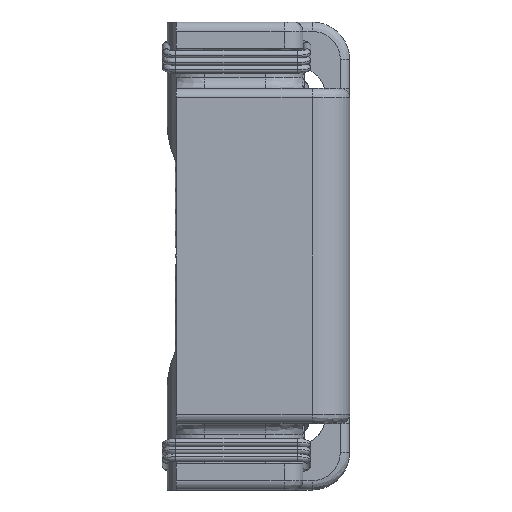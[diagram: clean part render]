
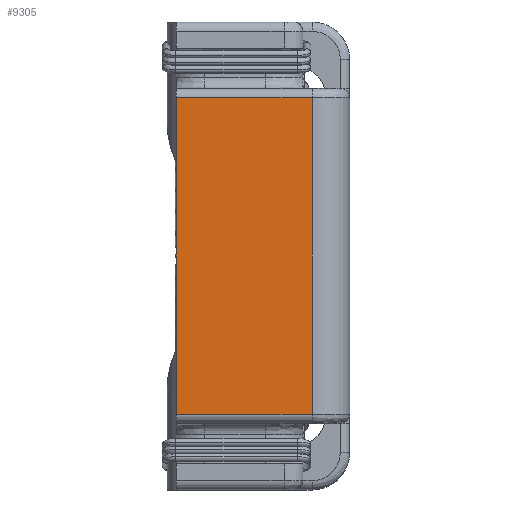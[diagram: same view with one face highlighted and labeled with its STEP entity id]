
A CAD part, left-side view. The second image highlights one B-rep face of the part: STEP entity #9305.
In plain terms, the highlighted planar face has unit normal (-1, 0, 0).
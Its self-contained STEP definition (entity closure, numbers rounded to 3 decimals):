
#1 = LINE ( 'NONE', #11206, #2756 ) ;
#18 = DIRECTION ( 'NONE',  ( 0., 0., -1. ) ) ;
#112 = DIRECTION ( 'NONE',  ( 1., 0., 0. ) ) ;
#277 = CARTESIAN_POINT ( 'NONE',  ( -6.35, 1.016, 4.293 ) ) ;
#1146 = CARTESIAN_POINT ( 'NONE',  ( -6.35, 4.699, 6.35 ) ) ;
#1485 = DIRECTION ( 'NONE',  ( 0., 1., 0. ) ) ;
#1604 = CARTESIAN_POINT ( 'NONE',  ( -6.35, 4.699, -4.293 ) ) ;
#1689 = ORIENTED_EDGE ( 'NONE', *, *, #9254, .F. ) ;
#1957 = VECTOR ( 'NONE', #8380, 1000. ) ;
#2474 = VECTOR ( 'NONE', #1485, 1000. ) ;
#2554 = VERTEX_POINT ( 'NONE', #6516 ) ;
#2650 = VECTOR ( 'NONE', #18, 1000. ) ;
#2756 = VECTOR ( 'NONE', #6104, 1000. ) ;
#3918 = EDGE_LOOP ( 'NONE', ( #7038, #11056, #6540, #1689 ) ) ;
#4059 = EDGE_CURVE ( 'NONE', #4613, #7820, #13141, .T. ) ;
#4613 = VERTEX_POINT ( 'NONE', #7571 ) ;
#5265 = PLANE ( 'NONE',  #10103 ) ;
#5755 = CARTESIAN_POINT ( 'NONE',  ( -6.35, 4.699, -4.293 ) ) ;
#6104 = DIRECTION ( 'NONE',  ( 0., -1., 0. ) ) ;
#6331 = CARTESIAN_POINT ( 'NONE',  ( -6.35, 4.699, 6.35 ) ) ;
#6516 = CARTESIAN_POINT ( 'NONE',  ( -6.35, 4.699, 4.293 ) ) ;
#6540 = ORIENTED_EDGE ( 'NONE', *, *, #4059, .F. ) ;
#7038 = ORIENTED_EDGE ( 'NONE', *, *, #8636, .F. ) ;
#7377 = DIRECTION ( 'NONE',  ( 0., 0., -1. ) ) ;
#7571 = CARTESIAN_POINT ( 'NONE',  ( -6.35, 1.016, -4.293 ) ) ;
#7820 = VERTEX_POINT ( 'NONE', #1604 ) ;
#7847 = FACE_OUTER_BOUND ( 'NONE', #3918, .T. ) ;
#8380 = DIRECTION ( 'NONE',  ( 0., 0., 1. ) ) ;
#8636 = EDGE_CURVE ( 'NONE', #2554, #10571, #1, .T. ) ;
#8752 = EDGE_CURVE ( 'NONE', #7820, #2554, #9885, .T. ) ;
#9254 = EDGE_CURVE ( 'NONE', #10571, #4613, #10917, .T. ) ;
#9305 = ADVANCED_FACE ( 'NONE', ( #7847 ), #5265, .F. ) ;
#9885 = LINE ( 'NONE', #1146, #1957 ) ;
#10103 = AXIS2_PLACEMENT_3D ( 'NONE', #6331, #112, #7377 ) ;
#10254 = CARTESIAN_POINT ( 'NONE',  ( -6.35, 1.016, 6.35 ) ) ;
#10571 = VERTEX_POINT ( 'NONE', #277 ) ;
#10917 = LINE ( 'NONE', #10254, #2650 ) ;
#11056 = ORIENTED_EDGE ( 'NONE', *, *, #8752, .F. ) ;
#11206 = CARTESIAN_POINT ( 'NONE',  ( -6.35, 4.699, 4.293 ) ) ;
#13141 = LINE ( 'NONE', #5755, #2474 ) ;
